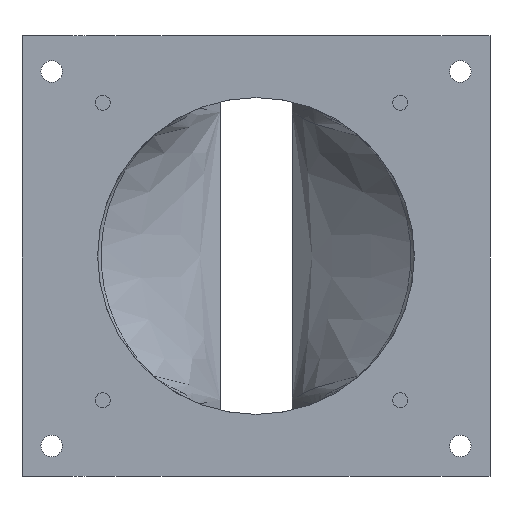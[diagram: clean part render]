
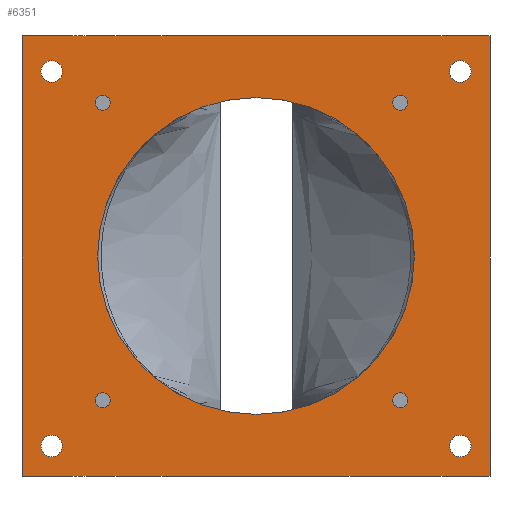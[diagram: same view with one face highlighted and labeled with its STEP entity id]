
A CAD part, front view. The second image highlights one B-rep face of the part: STEP entity #6351.
In plain terms, the highlighted planar face has unit normal (0, -1, 0).
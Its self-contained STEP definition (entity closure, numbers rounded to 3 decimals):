
#377=FACE_BOUND('',#1212,.T.);
#378=FACE_BOUND('',#1213,.T.);
#379=FACE_BOUND('',#1214,.T.);
#380=FACE_BOUND('',#1215,.T.);
#381=FACE_BOUND('',#1216,.T.);
#382=FACE_BOUND('',#1217,.T.);
#383=FACE_BOUND('',#1218,.T.);
#384=FACE_BOUND('',#1219,.T.);
#385=FACE_BOUND('',#1220,.T.);
#564=PLANE('',#6643);
#874=FACE_OUTER_BOUND('',#1211,.T.);
#1211=EDGE_LOOP('',(#5726,#5727,#5728,#5729));
#1212=EDGE_LOOP('',(#5730));
#1213=EDGE_LOOP('',(#5731));
#1214=EDGE_LOOP('',(#5732));
#1215=EDGE_LOOP('',(#5733));
#1216=EDGE_LOOP('',(#5734));
#1217=EDGE_LOOP('',(#5735));
#1218=EDGE_LOOP('',(#5736));
#1219=EDGE_LOOP('',(#5737));
#1220=EDGE_LOOP('',(#5738));
#1300=LINE('',#8018,#1925);
#1855=LINE('',#12366,#2480);
#1856=LINE('',#12367,#2481);
#1857=LINE('',#12368,#2482);
#1925=VECTOR('',#6801,10.);
#2480=VECTOR('',#7788,10.);
#2481=VECTOR('',#7789,10.);
#2482=VECTOR('',#7790,10.);
#2511=CIRCLE('',#6391,2.063);
#2513=CIRCLE('',#6395,2.063);
#2515=CIRCLE('',#6399,2.062);
#2517=CIRCLE('',#6403,2.063);
#2555=CIRCLE('',#6626,3.);
#2557=CIRCLE('',#6629,3.);
#2567=CIRCLE('',#6642,44.);
#2568=CIRCLE('',#6644,3.);
#2569=CIRCLE('',#6645,3.);
#2584=VERTEX_POINT('',#7901);
#2586=VERTEX_POINT('',#7908);
#2588=VERTEX_POINT('',#7915);
#2590=VERTEX_POINT('',#7922);
#2623=VERTEX_POINT('',#8015);
#2624=VERTEX_POINT('',#8017);
#3145=VERTEX_POINT('',#11811);
#3147=VERTEX_POINT('',#11817);
#3165=VERTEX_POINT('',#12318);
#3171=VERTEX_POINT('',#12364);
#3172=VERTEX_POINT('',#12365);
#3173=VERTEX_POINT('',#12369);
#3174=VERTEX_POINT('',#12371);
#3200=EDGE_CURVE('',#2584,#2584,#2511,.T.);
#3203=EDGE_CURVE('',#2586,#2586,#2513,.T.);
#3206=EDGE_CURVE('',#2588,#2588,#2515,.T.);
#3209=EDGE_CURVE('',#2590,#2590,#2517,.T.);
#3255=EDGE_CURVE('',#2623,#2624,#1300,.T.);
#4037=EDGE_CURVE('',#3145,#3145,#2555,.T.);
#4040=EDGE_CURVE('',#3147,#3147,#2557,.T.);
#4069=EDGE_CURVE('',#3165,#3165,#2567,.T.);
#4077=EDGE_CURVE('',#3171,#3172,#1855,.T.);
#4078=EDGE_CURVE('',#2624,#3171,#1856,.T.);
#4079=EDGE_CURVE('',#3172,#2623,#1857,.T.);
#4080=EDGE_CURVE('',#3173,#3173,#2568,.T.);
#4081=EDGE_CURVE('',#3174,#3174,#2569,.T.);
#5726=ORIENTED_EDGE('',*,*,#4077,.F.);
#5727=ORIENTED_EDGE('',*,*,#4078,.F.);
#5728=ORIENTED_EDGE('',*,*,#3255,.F.);
#5729=ORIENTED_EDGE('',*,*,#4079,.F.);
#5730=ORIENTED_EDGE('',*,*,#3200,.T.);
#5731=ORIENTED_EDGE('',*,*,#3203,.T.);
#5732=ORIENTED_EDGE('',*,*,#3206,.T.);
#5733=ORIENTED_EDGE('',*,*,#3209,.T.);
#5734=ORIENTED_EDGE('',*,*,#4069,.T.);
#5735=ORIENTED_EDGE('',*,*,#4080,.T.);
#5736=ORIENTED_EDGE('',*,*,#4081,.T.);
#5737=ORIENTED_EDGE('',*,*,#4037,.T.);
#5738=ORIENTED_EDGE('',*,*,#4040,.T.);
#6351=ADVANCED_FACE('',(#874,#377,#378,#379,#380,#381,#382,#383,#384,#385),
#564,.F.);
#6391=AXIS2_PLACEMENT_3D('',#7902,#6688,#6689);
#6395=AXIS2_PLACEMENT_3D('',#7909,#6697,#6698);
#6399=AXIS2_PLACEMENT_3D('',#7916,#6706,#6707);
#6403=AXIS2_PLACEMENT_3D('',#7923,#6715,#6716);
#6626=AXIS2_PLACEMENT_3D('',#11813,#7749,#7750);
#6629=AXIS2_PLACEMENT_3D('',#11819,#7756,#7757);
#6642=AXIS2_PLACEMENT_3D('',#12319,#7783,#7784);
#6643=AXIS2_PLACEMENT_3D('',#12363,#7786,#7787);
#6644=AXIS2_PLACEMENT_3D('',#12370,#7791,#7792);
#6645=AXIS2_PLACEMENT_3D('',#12372,#7793,#7794);
#6688=DIRECTION('center_axis',(0.,1.,0.));
#6689=DIRECTION('ref_axis',(1.,0.,0.));
#6697=DIRECTION('center_axis',(0.,1.,0.));
#6698=DIRECTION('ref_axis',(1.,0.,0.));
#6706=DIRECTION('center_axis',(0.,1.,0.));
#6707=DIRECTION('ref_axis',(1.,0.,0.));
#6715=DIRECTION('center_axis',(0.,1.,0.));
#6716=DIRECTION('ref_axis',(1.,0.,0.));
#6801=DIRECTION('',(-1.,0.,0.));
#7749=DIRECTION('center_axis',(0.,1.,0.));
#7750=DIRECTION('ref_axis',(-1.,0.,0.));
#7756=DIRECTION('center_axis',(0.,1.,0.));
#7757=DIRECTION('ref_axis',(-1.,0.,0.));
#7783=DIRECTION('center_axis',(0.,1.,0.));
#7784=DIRECTION('ref_axis',(1.,0.,0.));
#7786=DIRECTION('center_axis',(0.,1.,0.));
#7787=DIRECTION('ref_axis',(1.,0.,0.));
#7788=DIRECTION('',(1.,0.,0.));
#7789=DIRECTION('',(0.,0.,1.));
#7790=DIRECTION('',(0.,0.,-1.));
#7791=DIRECTION('center_axis',(0.,1.,0.));
#7792=DIRECTION('ref_axis',(-1.,0.,0.));
#7793=DIRECTION('center_axis',(0.,1.,0.));
#7794=DIRECTION('ref_axis',(-1.,0.,0.));
#7901=CARTESIAN_POINT('',(109.268,-4.,-111.331));
#7902=CARTESIAN_POINT('Origin',(111.331,-4.,-111.331));
#7908=CARTESIAN_POINT('',(26.607,-4.,-28.67));
#7909=CARTESIAN_POINT('Origin',(28.67,-4.,-28.67));
#7915=CARTESIAN_POINT('',(26.607,-4.,-111.331));
#7916=CARTESIAN_POINT('Origin',(28.67,-4.,-111.331));
#7922=CARTESIAN_POINT('',(109.268,-4.,-28.67));
#7923=CARTESIAN_POINT('Origin',(111.331,-4.,-28.67));
#8015=CARTESIAN_POINT('',(136.25,-4.,-132.375));
#8017=CARTESIAN_POINT('',(6.25,-4.,-132.375));
#8018=CARTESIAN_POINT('',(66.25,-4.,-132.375));
#11811=CARTESIAN_POINT('',(131.,-4.,-19.975));
#11813=CARTESIAN_POINT('Origin',(128.,-4.,-19.975));
#11817=CARTESIAN_POINT('',(131.,-4.,-124.025));
#11819=CARTESIAN_POINT('Origin',(128.,-4.,-124.025));
#12318=CARTESIAN_POINT('',(27.25,-4.,-71.25));
#12319=CARTESIAN_POINT('Origin',(71.25,-4.,-71.25));
#12363=CARTESIAN_POINT('Origin',(71.25,-4.,-71.25));
#12364=CARTESIAN_POINT('',(6.25,-4.,-10.125));
#12365=CARTESIAN_POINT('',(136.25,-4.,-10.125));
#12366=CARTESIAN_POINT('',(63.75,-4.,-10.125));
#12367=CARTESIAN_POINT('',(6.25,-4.,-46.25));
#12368=CARTESIAN_POINT('',(136.25,-4.,-96.25));
#12369=CARTESIAN_POINT('',(17.5,-4.,-124.025));
#12370=CARTESIAN_POINT('Origin',(14.5,-4.,-124.025));
#12371=CARTESIAN_POINT('',(17.5,-4.,-19.975));
#12372=CARTESIAN_POINT('Origin',(14.5,-4.,-19.975));
